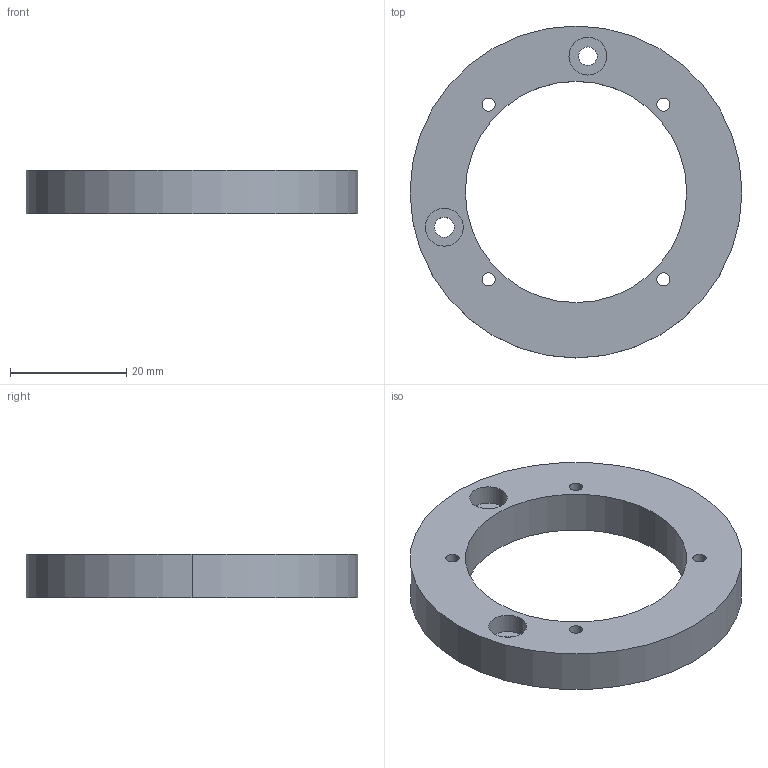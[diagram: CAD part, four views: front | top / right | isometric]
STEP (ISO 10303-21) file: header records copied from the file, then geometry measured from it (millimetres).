
FILE_DESCRIPTION (( 'STEP AP214' ), '1' );
FILE_NAME ('DMi8 casting flange adaptor 1.0.STEP', '2017-07-14T21:18:47', ( '' ), ( '' ), 'SwSTEP 2.0', 'SolidWorks 2016', '' );
FILE_SCHEMA (( 'AUTOMOTIVE_DESIGN' ));
Length unit declared in the file: millimetre
Products named in the file (1): DMi8 casting flange adaptor 1.0
Bounding box: 57 x 57 x 7.5 mm (x, y, z)
Volume: 10216.1 mm3; surface area: 5444.2 mm2
Topology: 1 solids, 1 shells, 24 faces, 60 edges, 40 vertices
Faces by surface type: cylinder 20, plane 4
Entity records: 916 total; most frequent: DIRECTION 150, CARTESIAN_POINT 125, ORIENTED_EDGE 120, AXIS2_PLACEMENT_3D 65, EDGE_CURVE 60, CIRCLE 40, VERTEX_POINT 40, EDGE_LOOP 40
